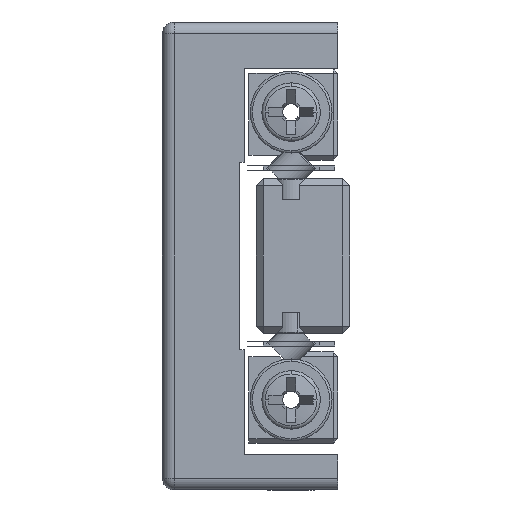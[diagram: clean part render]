
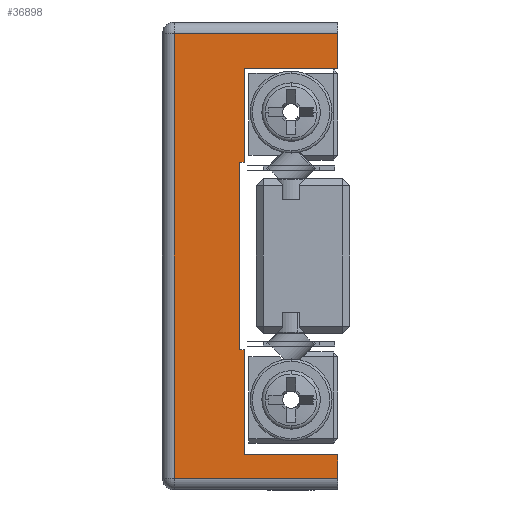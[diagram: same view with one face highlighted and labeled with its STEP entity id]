
A CAD part, left-side view. The second image highlights one B-rep face of the part: STEP entity #36898.
In plain terms, the highlighted planar face has unit normal (-1, 0, 0).
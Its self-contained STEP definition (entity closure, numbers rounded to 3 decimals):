
#3984 = AXIS2_PLACEMENT_3D ( 'NONE', #9176, #9184, #9185 ) ;
#4787 = FACE_OUTER_BOUND ( 'NONE', #14003, .T. ) ;
#7093 = EDGE_CURVE ( 'NONE', #52802, #52801, #51741, .T. ) ;
#7105 = EDGE_CURVE ( 'NONE', #52807, #52802, #51760, .T. ) ;
#7120 = EDGE_CURVE ( 'NONE', #52826, #52778, #51786, .T. ) ;
#7122 = EDGE_CURVE ( 'NONE', #52821, #52826, #51790, .T. ) ;
#7126 = EDGE_CURVE ( 'NONE', #52801, #52794, #51795, .T. ) ;
#7128 = EDGE_CURVE ( 'NONE', #52807, #52810, #51796, .T. ) ;
#7130 = EDGE_CURVE ( 'NONE', #52832, #52821, #51799, .T. ) ;
#7131 = EDGE_CURVE ( 'NONE', #52810, #52832, #51804, .T. ) ;
#7133 = EDGE_CURVE ( 'NONE', #52797, #52793, #51803, .T. ) ;
#7157 = EDGE_CURVE ( 'NONE', #52793, #52778, #51838, .T. ) ;
#7162 = EDGE_CURVE ( 'NONE', #52795, #52797, #51846, .T. ) ;
#7168 = EDGE_CURVE ( 'NONE', #52794, #52795, #51848, .T. ) ;
#9176 = CARTESIAN_POINT ( 'NONE',  ( -18.692, 8.675, -10. ) ) ;
#9182 = PLANE ( 'NONE',  #3984 ) ;
#9184 = DIRECTION ( 'NONE',  ( 1., 0., 0. ) ) ;
#9185 = DIRECTION ( 'NONE',  ( 0., 0., -1. ) ) ;
#14003 = EDGE_LOOP ( 'NONE', ( #17095, #17096, #17097, #17098, #17115, #17116, #17117, #17118, #17119, #17120, #17121, #17122 ) ) ;
#17095 = ORIENTED_EDGE ( 'NONE', *, *, #7128, .T. ) ;
#17096 = ORIENTED_EDGE ( 'NONE', *, *, #7131, .T. ) ;
#17097 = ORIENTED_EDGE ( 'NONE', *, *, #7130, .T. ) ;
#17098 = ORIENTED_EDGE ( 'NONE', *, *, #7122, .T. ) ;
#17115 = ORIENTED_EDGE ( 'NONE', *, *, #7120, .T. ) ;
#17116 = ORIENTED_EDGE ( 'NONE', *, *, #7157, .F. ) ;
#17117 = ORIENTED_EDGE ( 'NONE', *, *, #7133, .F. ) ;
#17118 = ORIENTED_EDGE ( 'NONE', *, *, #7162, .F. ) ;
#17119 = ORIENTED_EDGE ( 'NONE', *, *, #7168, .F. ) ;
#17120 = ORIENTED_EDGE ( 'NONE', *, *, #7126, .F. ) ;
#17121 = ORIENTED_EDGE ( 'NONE', *, *, #7093, .F. ) ;
#17122 = ORIENTED_EDGE ( 'NONE', *, *, #7105, .F. ) ;
#24545 = CARTESIAN_POINT ( 'NONE',  ( -18.692, 1.175, -8.5 ) ) ;
#24560 = CARTESIAN_POINT ( 'NONE',  ( -18.692, 5.175, -8.5 ) ) ;
#24561 = CARTESIAN_POINT ( 'NONE',  ( -18.692, 5.375, 4. ) ) ;
#24562 = CARTESIAN_POINT ( 'NONE',  ( -18.692, 5.375, -4. ) ) ;
#24564 = CARTESIAN_POINT ( 'NONE',  ( -18.692, 5.175, -4. ) ) ;
#24568 = CARTESIAN_POINT ( 'NONE',  ( -18.692, 5.175, 4. ) ) ;
#24569 = CARTESIAN_POINT ( 'NONE',  ( -18.692, 5.175, 8. ) ) ;
#24574 = CARTESIAN_POINT ( 'NONE',  ( -18.692, 1.175, 8. ) ) ;
#24577 = CARTESIAN_POINT ( 'NONE',  ( -18.692, 1.175, 9.5 ) ) ;
#25704 = CARTESIAN_POINT ( 'NONE',  ( -18.692, 8.175, -9.5 ) ) ;
#25709 = CARTESIAN_POINT ( 'NONE',  ( -18.692, 1.175, -9.5 ) ) ;
#25715 = CARTESIAN_POINT ( 'NONE',  ( -18.692, 8.175, 9.5 ) ) ;
#34196 = DIRECTION ( 'NONE',  ( 0., 0., -1. ) ) ;
#34203 = CARTESIAN_POINT ( 'NONE',  ( -18.692, 5.375, -4. ) ) ;
#34300 = CARTESIAN_POINT ( 'NONE',  ( -18.692, 5.175, 8. ) ) ;
#34350 = DIRECTION ( 'NONE',  ( 0., -1., 0. ) ) ;
#34360 = CARTESIAN_POINT ( 'NONE',  ( -18.692, 1.175, -8.5 ) ) ;
#34389 = CARTESIAN_POINT ( 'NONE',  ( -18.692, 5.175, -4. ) ) ;
#34390 = DIRECTION ( 'NONE',  ( 0., -1., 0. ) ) ;
#34554 = CARTESIAN_POINT ( 'NONE',  ( -18.692, 8.675, -9.5 ) ) ;
#34557 = DIRECTION ( 'NONE',  ( 0., -1., 0. ) ) ;
#34568 = CARTESIAN_POINT ( 'NONE',  ( -18.692, 1.175, -10. ) ) ;
#34570 = CARTESIAN_POINT ( 'NONE',  ( -18.692, 5.375, 4. ) ) ;
#34581 = DIRECTION ( 'NONE',  ( 0., 0., -1. ) ) ;
#34585 = DIRECTION ( 'NONE',  ( 0., 0., 1. ) ) ;
#34586 = DIRECTION ( 'NONE',  ( 0., 0., -1. ) ) ;
#34587 = CARTESIAN_POINT ( 'NONE',  ( -18.692, 8.175, -10. ) ) ;
#34598 = CARTESIAN_POINT ( 'NONE',  ( -18.692, 8.675, 9.5 ) ) ;
#34601 = DIRECTION ( 'NONE',  ( 0., 1., 0. ) ) ;
#34606 = CARTESIAN_POINT ( 'NONE',  ( -18.692, 5.175, -8.5 ) ) ;
#34639 = DIRECTION ( 'NONE',  ( 0., 0., 1. ) ) ;
#34707 = CARTESIAN_POINT ( 'NONE',  ( -18.692, 1.175, -10. ) ) ;
#34818 = DIRECTION ( 'NONE',  ( 0., 0., -1. ) ) ;
#34819 = CARTESIAN_POINT ( 'NONE',  ( -18.692, 5.175, 4. ) ) ;
#34956 = DIRECTION ( 'NONE',  ( 0., 1., 0. ) ) ;
#34997 = DIRECTION ( 'NONE',  ( 0., 1., 0. ) ) ;
#36898 = ADVANCED_FACE ( 'NONE', ( #4787 ), #9182, .F. ) ;
#51741 = LINE ( 'NONE', #34819, #51744 ) ;
#51744 = VECTOR ( 'NONE', #34818, 1000. ) ;
#51760 = LINE ( 'NONE', #34300, #51763 ) ;
#51763 = VECTOR ( 'NONE', #34997, 1000. ) ;
#51786 = LINE ( 'NONE', #34707, #51789 ) ;
#51789 = VECTOR ( 'NONE', #34639, 1000. ) ;
#51790 = LINE ( 'NONE', #34554, #51793 ) ;
#51793 = VECTOR ( 'NONE', #34557, 1000. ) ;
#51795 = LINE ( 'NONE', #34570, #51798 ) ;
#51796 = LINE ( 'NONE', #34568, #51802 ) ;
#51798 = VECTOR ( 'NONE', #34956, 1000. ) ;
#51799 = LINE ( 'NONE', #34587, #51805 ) ;
#51802 = VECTOR ( 'NONE', #34585, 1000. ) ;
#51803 = LINE ( 'NONE', #34606, #51810 ) ;
#51804 = LINE ( 'NONE', #34598, #51807 ) ;
#51805 = VECTOR ( 'NONE', #34581, 1000. ) ;
#51807 = VECTOR ( 'NONE', #34601, 1000. ) ;
#51810 = VECTOR ( 'NONE', #34586, 1000. ) ;
#51838 = LINE ( 'NONE', #34360, #51841 ) ;
#51841 = VECTOR ( 'NONE', #34350, 1000. ) ;
#51846 = LINE ( 'NONE', #34389, #51849 ) ;
#51848 = LINE ( 'NONE', #34203, #51859 ) ;
#51849 = VECTOR ( 'NONE', #34390, 1000. ) ;
#51859 = VECTOR ( 'NONE', #34196, 1000. ) ;
#52778 = VERTEX_POINT ( 'NONE', #24545 ) ;
#52793 = VERTEX_POINT ( 'NONE', #24560 ) ;
#52794 = VERTEX_POINT ( 'NONE', #24561 ) ;
#52795 = VERTEX_POINT ( 'NONE', #24562 ) ;
#52797 = VERTEX_POINT ( 'NONE', #24564 ) ;
#52801 = VERTEX_POINT ( 'NONE', #24568 ) ;
#52802 = VERTEX_POINT ( 'NONE', #24569 ) ;
#52807 = VERTEX_POINT ( 'NONE', #24574 ) ;
#52810 = VERTEX_POINT ( 'NONE', #24577 ) ;
#52821 = VERTEX_POINT ( 'NONE', #25704 ) ;
#52826 = VERTEX_POINT ( 'NONE', #25709 ) ;
#52832 = VERTEX_POINT ( 'NONE', #25715 ) ;
